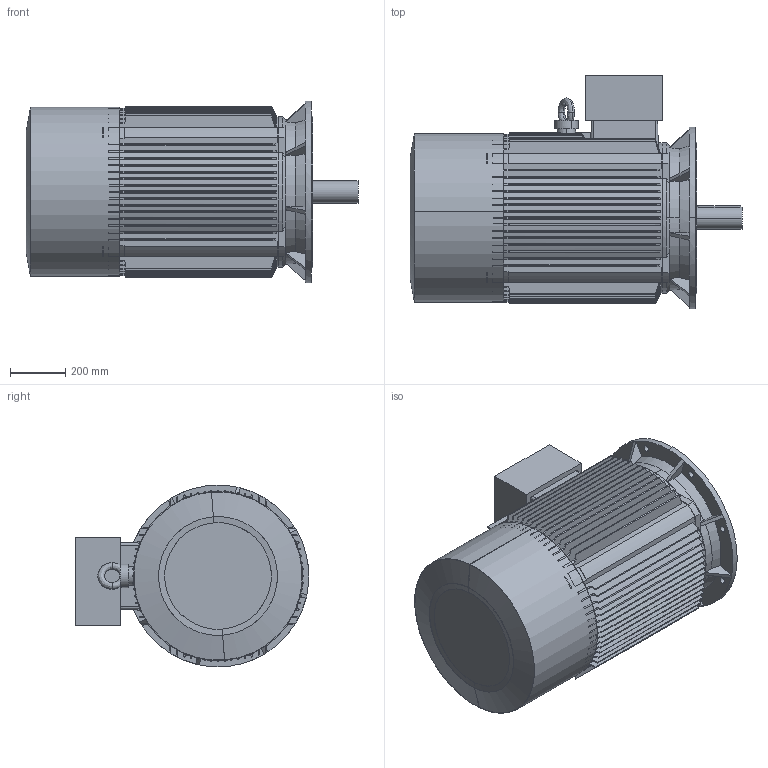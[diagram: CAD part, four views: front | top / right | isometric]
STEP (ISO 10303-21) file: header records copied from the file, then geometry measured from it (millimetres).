
FILE_DESCRIPTION (( 'STEP AP203' ), '1' );
FILE_NAME ('M3-315S-4p-FF-B5.STEP', '2019-07-16T09:46:19', ( '' ), ( '' ), 'SwSTEP 2.0', 'SolidWorks 2012', '' );
FILE_SCHEMA (( 'CONFIG_CONTROL_DESIGN' ));
Length unit declared in the file: millimetre
Products named in the file (7): M3-315S-4p-FF-B5; Y2-315M-4Íß¦ð-Ô©Ã_-¼+¤; Y2-315-4.6.8.10-ｦﾈﾁﾂ-ｩﾃ_-ｼ+､; Y2-315M-4ﾍﾟ_-ｼ+､; 315ﾁｧ+ﾀ_-ｼ+､; Y2-315-2.4..6.8ﾀiﾍ_-ｼ+､; +ｷﾎｨB5-315S_-ｼ+､
Assembly tree (6 placements, depth 2):
  M3-315S-4p-FF-B5
    +ｷﾎｨB5-315S_-ｼ+､
    315ﾁｧ+ﾀ_-ｼ+､
    Y2-315-2.4..6.8ﾀiﾍ_-ｼ+､
    Y2-315M-4ﾍﾟ_-ｼ+､
    Y2-315M-4Íß¦ð-Ô©Ã_-¼+¤
    Y2-315-4.6.8.10-ｦﾈﾁﾂ-ｩﾃ_-ｼ+､
Bounding box: 1206 x 849 x 660 mm (x, y, z)
Volume: 63310496.4 mm3; surface area: 8677124.2 mm2
Topology: 6 solids, 10 shells, 795 faces, 2205 edges, 1449 vertices
Faces by surface type: plane 313, cylinder 263, cone 122, bspline 97
Entity records: 33879 total; most frequent: CARTESIAN_POINT 13733, ORIENTED_EDGE 4410, DIRECTION 3580, EDGE_CURVE 2205, VERTEX_POINT 1449, AXIS2_PLACEMENT_3D 1352, LINE 876, VECTOR 876
